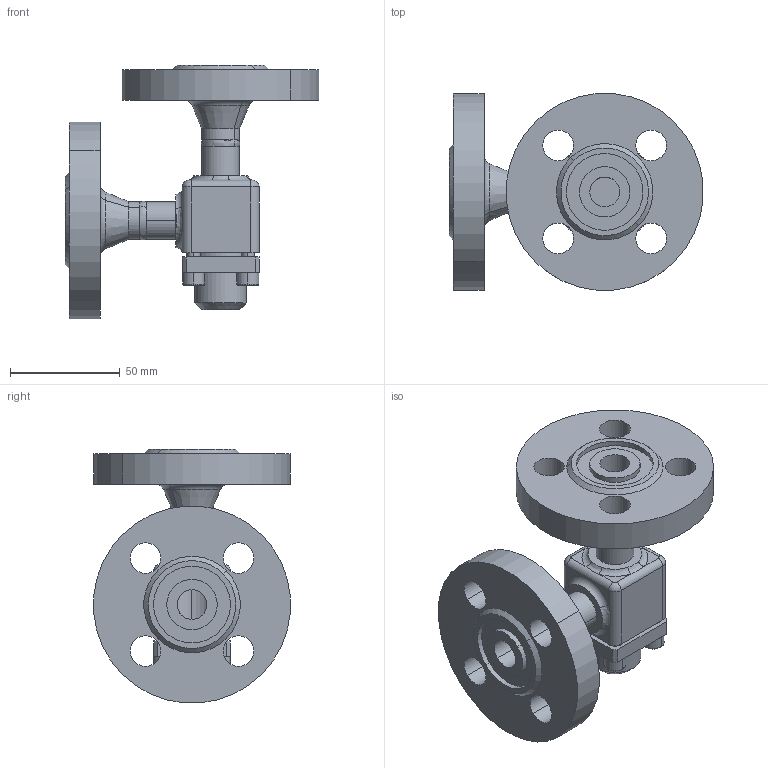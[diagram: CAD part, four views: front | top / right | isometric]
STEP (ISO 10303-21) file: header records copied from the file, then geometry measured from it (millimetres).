
FILE_DESCRIPTION (( 'STEP AP214' ), '1' );
FILE_NAME ('RV98420-DN010_DIN-FL-N_PS40.STEP', '2006-05-02T09:35:27', ( 'Herr Grams' ), ( 'AWP GmbH' ), 'SwSTEP 2.0', 'SolidWorks 2002296', '' );
FILE_SCHEMA (( 'AUTOMOTIVE_DESIGN' ));
Length unit declared in the file: millimetre
Products named in the file (9): RV98420-DN010_DIN-FL-N_PS40; RV98300E10_Deck+Schr-DN6-15_Standard; Deckel98300E10-DN6-15_PS40_Standard; Zylinderschraube-DIN912_M 6x 18; Geh-kpl96420E08-DN10_PS40_DIN-FL_Standard; bead964-DN010-2_Standard; bead964-DN010-1_Standard; Flansch-DIN2635-Nut_PS40_DIN-Flansch-DN010_PS40-Nut; Gehäuse96400E08-DN10_PS40_R1_Standard
Assembly tree (12 placements, depth 3):
  RV98420-DN010_DIN-FL-N_PS40
    RV98300E10_Deck+Schr-DN6-15_Standard
      Deckel98300E10-DN6-15_PS40_Standard
      Zylinderschraube-DIN912_M 6x 18  x4
    Geh-kpl96420E08-DN10_PS40_DIN-FL_Standard
      Flansch-DIN2635-Nut_PS40_DIN-Flansch-DN010_PS40-Nut  x2
      bead964-DN010-1_Standard
      bead964-DN010-2_Standard
      Gehäuse96400E08-DN10_PS40_R1_Standard
Bounding box: 115.83 x 89.66 x 115.72 mm (x, y, z)
Volume: 216476.5 mm3; surface area: 62545.6 mm2
Topology: 10 solids, 10 shells, 253 faces, 566 edges, 352 vertices
Faces by surface type: cylinder 98, plane 79, cone 36, torus 25, bspline 15
Entity records: 11563 total; most frequent: CARTESIAN_POINT 7039, DIRECTION 866, ORIENTED_EDGE 760, EDGE_CURVE 380, AXIS2_PLACEMENT_3D 363, VERTEX_POINT 234, EDGE_LOOP 202, CIRCLE 194
